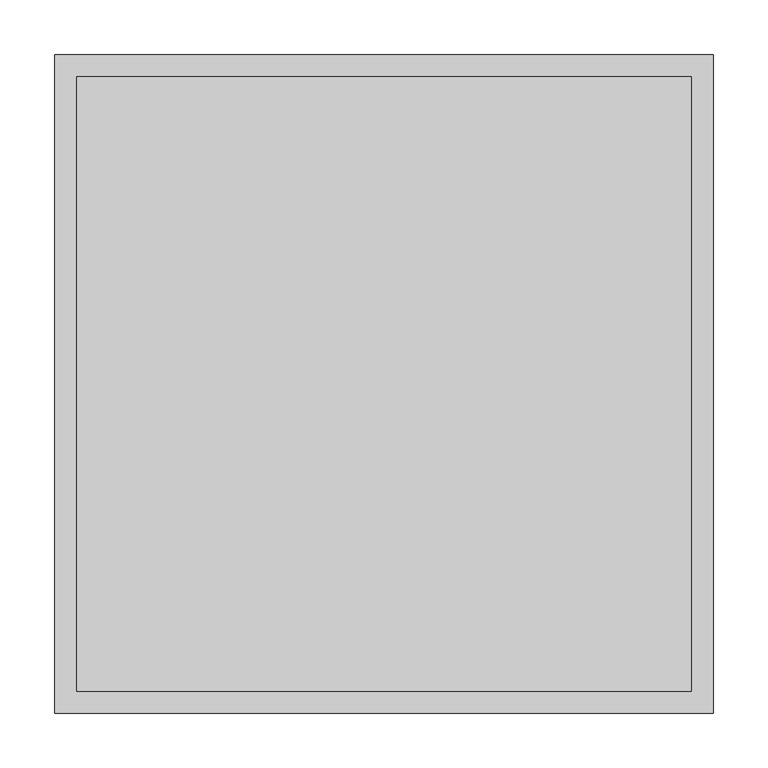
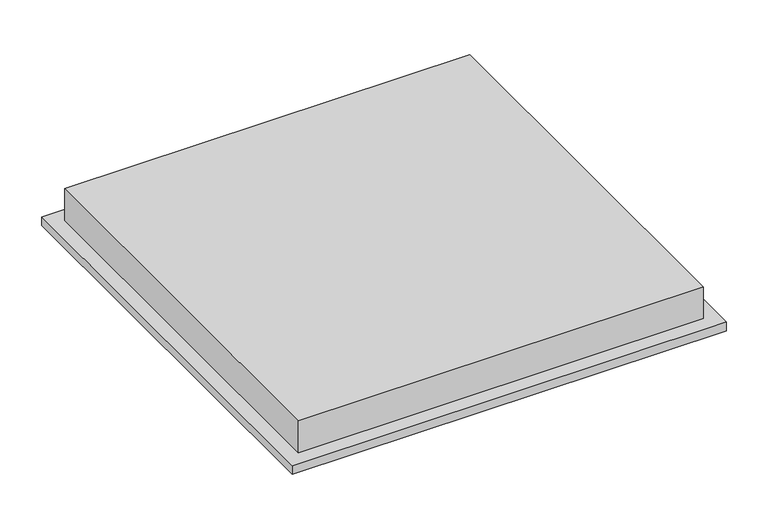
"""IFC4 building model written with IfcOpenShell, lengths in millimetres: light fixture geometry, GENILED_Светильник светодиодный_Экофон Advanced : Экофон Advanced 100Вт Опал."""

from ifc_helpers import new_model, si_unit, origin, place, context, project, spatial, faceted_brep, source, transform, mapped, element, save


def light_fixture_39556fc3(model_context):
    return source(origin(), model_context, "Body", "Brep", [
        faceted_brep([(300.0, 300.0, 12.5), (-300.0, 300.0, 12.5), (-300.0, -300.0, 12.5), (300.0, -300.0, 12.5), (-280.0, 280.0, 12.5), (280.0, 280.0, 12.5), (280.0, -280.0, 12.5), (-280.0, -280.0, 12.5), (300.0, 300.0, 0.0), (300.0, -300.0, 0.0), (-300.0, -300.0, 0.0), (-300.0, 300.0, 0.0), (280.0, 280.0, 0.0), (-280.0, 280.0, 0.0), (-280.0, -280.0, 0.0), (280.0, -280.0, 0.0), (280.0, -280.0, 5.0), (280.0, 280.0, 5.0), (-280.0, -280.0, 5.0), (-280.0, 280.0, 5.0), (-280.0, 280.0, 59.0), (280.0, 280.0, 59.0), (-280.0, -280.0, 59.0), (280.0, -280.0, 59.0)], [[[0, 1, 2, 3], [4, 5, 6, 7]], [[8, 9, 10, 11], [12, 13, 14, 15]], [[1, 0, 8, 11]], [[2, 1, 11, 10]], [[3, 2, 10, 9]], [[0, 3, 9, 8]], [[12, 15, 16, 17]], [[15, 14, 18, 16]], [[14, 13, 19, 18]], [[13, 12, 17, 19]], [[17, 16, 18, 19]], [[5, 4, 20, 21]], [[22, 20, 4, 7]], [[23, 22, 7, 6]], [[5, 21, 23, 6]], [[21, 20, 22, 23]]]),
    ])


if __name__ == "__main__":
    model = new_model("IFC4")
    model_context = context("Model", 3, world=origin())
    ifc_project = project(units=[si_unit("LENGTHUNIT", "METRE", prefix="MILLI")], contexts=[model_context])
    site = spatial("IfcSite", under=ifc_project)
    building = spatial("IfcBuilding", under=site)
    placement = place(None, origin())
    light_fixture_shape = light_fixture_39556fc3(model_context)
    element("IfcLightFixture", 1, ObjectType="GENILED_Светильник светодиодный_Экофон Advanced : Экофон Advanced 100Вт Опал", at=placement, inside=building, context=model_context, shape_type="MappedRepresentation", body=[
        mapped(light_fixture_shape, transform((0.0, 0.0, 0.0), x_axis=(1.0, 0.0, 0.0), y_axis=(0.0, 1.0, 0.0), z_axis=(0.0, 0.0, 1.0))),
    ])
    save(model, "model.ifc")
